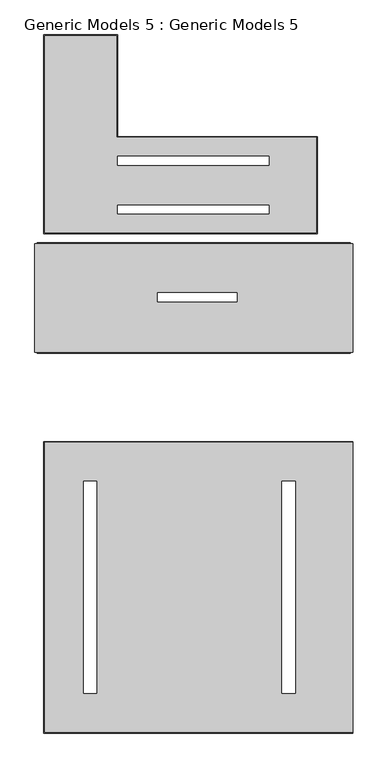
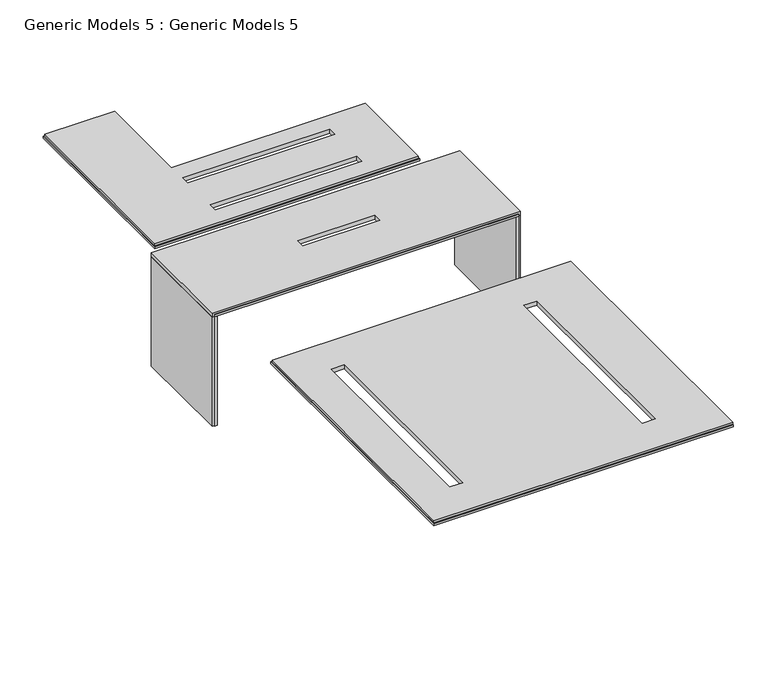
"""IFC4 building model written with IfcOpenShell, lengths in millimetres: proxy geometry, Generic Models 5 : Generic Models 5."""

from ifc_helpers import new_model, si_unit, origin, place, context, project, spatial, faceted_brep, source, transform, mapped, element, save


def generic_models_5_generic_models_5_4ff0fdc9(model_context):
    return source(origin(), model_context, "Body", "Brep", [
        faceted_brep([(10477.9525098, 5367.7866664, 2800.0), (10477.9525098, 2907.7866664, 2800.0), (10477.9525098, 2907.7866664, 2700.0), (10477.9525098, 5367.7866664, 2700.0), (3277.9525098, 2907.7866664, 2800.0), (3277.9525098, 5367.7866664, 2800.0), (3277.9525098, 5367.7866664, 2700.0), (3277.9525098, 2907.7866664, 2700.0), (10427.9525098, 5387.7866664, 2700.0), (3327.9525098, 5387.7866664, 2700.0), (3327.9525098, 5387.7866664, 2750.0), (10427.9525098, 5387.7866664, 2750.0), (3327.9525098, 5367.7866664, 2750.0), (10427.9525098, 5367.7866664, 2750.0), (10427.9525098, 5367.7866664, 2700.0), (3327.9525098, 5367.7866664, 2700.0), (7857.573656, 4251.5032949, 2800.0), (7857.573656, 4051.5032949, 2800.0), (6057.573656, 4051.5032949, 2800.0), (6057.573656, 4251.5032949, 2800.0), (3327.9525098, 2907.7866664, 2700.0), (3327.9525098, 2907.7866664, 2750.0), (10427.9525098, 2907.7866664, 2750.0), (10427.9525098, 2907.7866664, 2700.0), (3327.9525098, 2887.7866664, 2750.0), (10427.9525098, 2887.7866664, 2750.0), (3327.9525098, 2887.7866664, 2700.0), (10427.9525098, 2887.7866664, 2700.0), (7857.573656, 4051.5032949, 2700.0), (7857.573656, 4251.5032949, 2700.0), (6057.573656, 4251.5032949, 2700.0), (6057.573656, 4051.5032949, 2700.0)], [[[0, 1, 2, 3]], [[4, 5, 6, 7]], [[8, 9, 10, 11]], [[11, 10, 12, 13]], [[5, 0, 3, 14, 13, 12, 15, 6]], [[1, 0, 5, 4], [16, 17, 18, 19]], [[1, 4, 7, 20, 21, 22, 23, 2]], [[22, 21, 24, 25]], [[25, 24, 26, 27]], [[3, 2, 23, 27, 26, 20, 7, 6, 15, 9, 8, 14], [28, 29, 30, 31]], [[15, 12, 10, 9]], [[21, 20, 26, 24]], [[23, 22, 25, 27]], [[13, 14, 8, 11]], [[16, 29, 28, 17]], [[17, 28, 31, 18]], [[18, 31, 30, 19]], [[29, 16, 19, 30]]]),
        faceted_brep([(3477.9525098, 5587.7866664, 2700.0), (3477.9525098, 10087.7866664, 2700.0), (5150.4525708, 10087.7866664, 2700.0), (5150.4525708, 7787.7866664, 2700.0), (9677.9525098, 7787.7866664, 2700.0), (9677.9525098, 5587.7866664, 2700.0), (5150.4525708, 6037.7866664, 2700.0), (8577.9525098, 6037.7866664, 2700.0), (8577.9525098, 6237.7866664, 2700.0), (5150.4525708, 6237.7866664, 2700.0), (5150.4525708, 7137.7866664, 2700.0), (8577.9525098, 7137.7866664, 2700.0), (8577.9525098, 7337.7866664, 2700.0), (5150.4525708, 7337.7866664, 2700.0), (3497.9525098, 10067.7866664, 2800.0), (3497.9525098, 5607.7866664, 2800.0), (9657.9525098, 5607.7866664, 2800.0), (9657.9525098, 7767.7866664, 2800.0), (5130.4525708, 7767.7866664, 2800.0), (5130.4525708, 10067.7866664, 2800.0), (5150.4525708, 6037.7866664, 2800.0), (5150.4525708, 6237.7866664, 2800.0), (8577.9525098, 6237.7866664, 2800.0), (8577.9525098, 6037.7866664, 2800.0), (5150.4525708, 7137.7866664, 2800.0), (5150.4525708, 7337.7866664, 2800.0), (8577.9525098, 7337.7866664, 2800.0), (8577.9525098, 7137.7866664, 2800.0), (3477.9525098, 5587.7866664, 2750.0), (3477.9525098, 10087.7866664, 2750.0), (5150.4525708, 10087.7866664, 2750.0), (5150.4525708, 7787.7866664, 2750.0), (9677.9525098, 7787.7866664, 2750.0), (9677.9525098, 5587.7866664, 2750.0), (3497.9525098, 10067.7866664, 2750.0), (3497.9525098, 5607.7866664, 2750.0), (5130.4525708, 10067.7866664, 2750.0), (5130.4525708, 7767.7866664, 2750.0), (9657.9525098, 7767.7866664, 2750.0), (9657.9525098, 5607.7866664, 2750.0)], [[[0, 1, 2, 3, 4, 5], [6, 7, 8, 9], [10, 11, 12, 13]], [[14, 15, 16, 17, 18, 19], [20, 21, 22, 23], [24, 25, 26, 27]], [[1, 0, 28, 29]], [[2, 1, 29, 30]], [[3, 2, 30, 31]], [[4, 3, 31, 32]], [[5, 4, 32, 33]], [[0, 5, 33, 28]], [[14, 34, 35, 15]], [[34, 14, 19, 36]], [[36, 19, 18, 37]], [[37, 18, 17, 38]], [[38, 17, 16, 39]], [[29, 28, 33, 32, 31, 30], [35, 34, 36, 37, 38, 39]], [[15, 35, 39, 16]], [[7, 6, 20, 23]], [[8, 7, 23, 22]], [[9, 8, 22, 21]], [[6, 9, 21, 20]], [[11, 10, 24, 27]], [[12, 11, 27, 26]], [[13, 12, 26, 25]], [[10, 13, 25, 24]]]),
        faceted_brep([(3477.9525098, 887.7866664, 2700.0), (10477.9525098, 887.7866664, 2700.0), (10477.9525098, -5709.0133336, 2700.0), (3477.9525098, -5709.0133336, 2700.0), (4377.9525098, -4809.0133336, 2700.0), (4677.9525098, -4809.0133336, 2700.0), (4677.9525098, -12.2133336, 2700.0), (4377.9525098, -12.2133336, 2700.0), (9177.9525098, -4809.0133336, 2700.0), (9177.9525098, -12.2133336, 2700.0), (8877.9525098, -12.2133336, 2700.0), (8877.9525098, -4809.0133336, 2700.0), (10477.9525098, -5689.0133336, 2800.0), (10477.9525098, 867.7866664, 2800.0), (3497.9525098, 867.7866664, 2800.0), (3497.9525098, -5689.0133336, 2800.0), (4377.9525098, -4809.0133336, 2800.0), (4377.9525098, -12.2133336, 2800.0), (4677.9525098, -12.2133336, 2800.0), (4677.9525098, -4809.0133336, 2800.0), (9177.9525098, -4809.0133336, 2800.0), (8877.9525098, -4809.0133336, 2800.0), (8877.9525098, -12.2133336, 2800.0), (9177.9525098, -12.2133336, 2800.0), (3477.9525098, 887.7866664, 2750.0), (10477.9525098, 887.7866664, 2750.0), (10477.9525098, 867.7866664, 2750.0), (10477.9525098, -5689.0133336, 2750.0), (10477.9525098, -5709.0133336, 2750.0), (3477.9525098, -5709.0133336, 2750.0), (3497.9525098, -5689.0133336, 2750.0), (3497.9525098, 867.7866664, 2750.0)], [[[0, 1, 2, 3], [4, 5, 6, 7], [8, 9, 10, 11]], [[12, 13, 14, 15], [16, 17, 18, 19], [20, 21, 22, 23]], [[1, 0, 24, 25]], [[2, 1, 25, 26, 13, 12, 27, 28]], [[3, 2, 28, 29]], [[0, 3, 29, 24]], [[5, 4, 16, 19]], [[6, 5, 19, 18]], [[7, 6, 18, 17]], [[4, 7, 17, 16]], [[9, 8, 20, 23]], [[10, 9, 23, 22]], [[11, 10, 22, 21]], [[8, 11, 21, 20]], [[30, 27, 12, 15]], [[31, 30, 15, 14]], [[26, 31, 14, 13]], [[27, 30, 31, 26, 25, 24, 29, 28]]]),
        faceted_brep([(3377.9525098, 2887.7866664, 0.0), (3327.9525098, 2887.7866664, 0.0), (3327.9525098, 2907.7866664, 0.0), (3277.9525098, 2907.7866664, 0.0), (3277.9525098, 5367.7866664, 0.0), (3327.9525098, 5367.7866664, 0.0), (3327.9525098, 5387.7866664, 0.0), (3377.9525098, 5387.7866664, 0.0), (3377.9525098, 5387.7866664, 2700.0), (3377.9525098, 2887.7866664, 2700.0), (3327.9525098, 5387.7866664, 2700.0), (3327.9525098, 5367.7866664, 2700.0), (3277.9525098, 5367.7866664, 2700.0), (3277.9525098, 2907.7866664, 2700.0), (3327.9525098, 2907.7866664, 2700.0), (3327.9525098, 2887.7866664, 2700.0)], [[[0, 1, 2, 3, 4, 5, 6, 7]], [[0, 7, 8, 9]], [[9, 8, 10, 11, 12, 13, 14, 15]], [[1, 0, 9, 15]], [[2, 1, 15, 14]], [[3, 2, 14, 13]], [[4, 3, 13, 12]], [[5, 4, 12, 11]], [[6, 5, 11, 10]], [[7, 6, 10, 8]]]),
        faceted_brep([(10377.9525098, 2887.7866664, 0.0), (10377.9525098, 5387.7866664, 0.0), (10427.9525098, 5387.7866664, 0.0), (10427.9525098, 5367.7866664, 0.0), (10477.9525098, 5367.7866664, 0.0), (10477.9525098, 2907.7866664, 0.0), (10427.9525098, 2907.7866664, 0.0), (10427.9525098, 2887.7866664, 0.0), (10377.9525098, 2887.7866664, 2700.0), (10377.9525098, 5387.7866664, 2700.0), (10427.9525098, 2887.7866664, 2700.0), (10427.9525098, 2907.7866664, 2700.0), (10477.9525098, 2907.7866664, 2700.0), (10477.9525098, 5367.7866664, 2700.0), (10427.9525098, 5367.7866664, 2700.0), (10427.9525098, 5387.7866664, 2700.0)], [[[0, 1, 2, 3, 4, 5, 6, 7]], [[1, 0, 8, 9]], [[8, 10, 11, 12, 13, 14, 15, 9]], [[2, 1, 9, 15]], [[3, 2, 15, 14]], [[4, 3, 14, 13]], [[5, 4, 13, 12]], [[6, 5, 12, 11]], [[7, 6, 11, 10]], [[0, 7, 10, 8]]]),
    ])


if __name__ == "__main__":
    model = new_model("IFC4")
    model_context = context("Model", 3, world=origin())
    ifc_project = project(units=[si_unit("LENGTHUNIT", "METRE", prefix="MILLI")], contexts=[model_context])
    site = spatial("IfcSite", under=ifc_project)
    building = spatial("IfcBuilding", under=site)
    placement = place(None, origin())
    generic_models_5_generic_models_5_shape = generic_models_5_generic_models_5_4ff0fdc9(model_context)
    element("IfcBuildingElementProxy", 1, Name="Generic Models 5 : Generic Models 5", ObjectType="Generic Models 5 : Generic Models 5", at=placement, inside=building, context=model_context, shape_type="MappedRepresentation", body=[
        mapped(generic_models_5_generic_models_5_shape, transform((0.0, 0.0, 0.0), x_axis=(1.0, 0.0, 0.0), y_axis=(0.0, 1.0, 0.0), z_axis=(0.0, 0.0, 1.0))),
    ])
    save(model, "model.ifc")
